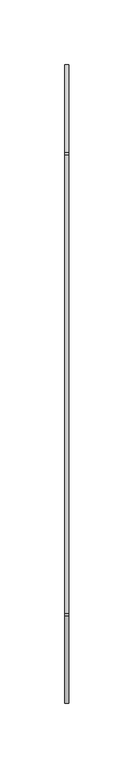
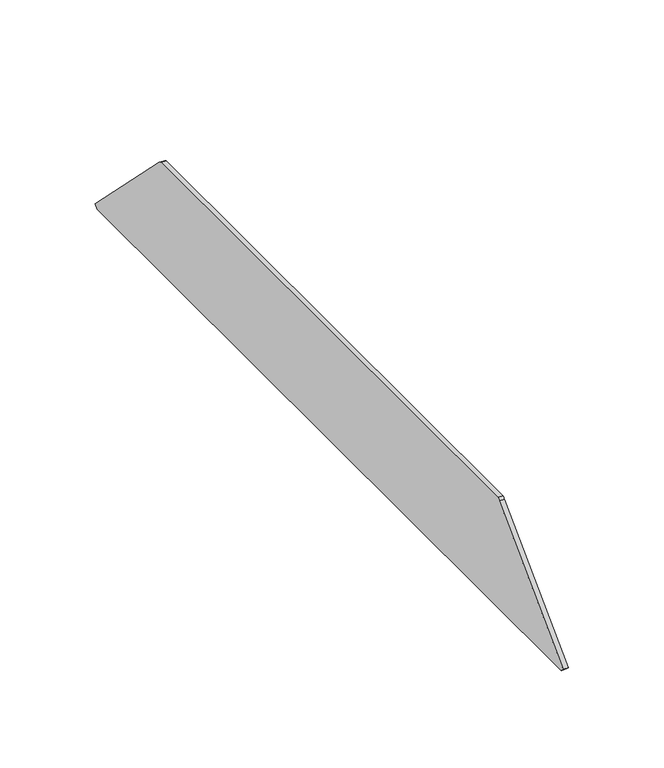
"""IFC4 building model written with IfcOpenShell, lengths in millimetres: cable carrier fitting geometry, Electrical_Installation_Hager_End-Piece : Electrical_Installation_Hager_End-Piece."""

from ifc_helpers import new_model, si_unit, point, frame, frame_2d, origin, place, context, project, spatial, polyline, circle_curve, trimmed, segment, composite_curve, outline, extrude, source, transform, mapped, element, save


def cable_carrier_fitting_eba510c2(model_context):
    return source(origin(), model_context, "Body", "SweptSolid", [
        extrude(outline(composite_curve([segment(polyline([(245.7213203, -32.8786797), (243.6, -35.0), (-243.6, -35.0), (-245.7213203, -32.8786797), (-178.5142136, 34.3284271)]), True, "CONTINUOUS"), segment(trimmed(circle_curve(frame_2d((-176.0170755, 32.4593317)), 3.1191692), [point((-178.5142136, 34.3284271))], [point((-176.7124549, 35.5))], False, "CARTESIAN"), True, "CONTINUOUS"), segment(polyline([(-176.7124549, 35.5), (176.7124549, 35.5)]), True, "CONTINUOUS"), segment(trimmed(circle_curve(frame_2d((175.5004738, 31.6648514)), 4.0220969), [point((176.7124549, 35.5))], [point((178.5142136, 34.3284271))], False, "CARTESIAN"), True, "CONTINUOUS"), segment(polyline([(178.5142136, 34.3284271), (245.7213203, -32.8786797)]), True, "CONTINUOUS")], self_intersect=False)), frame((0.0, 0.0, 0.0), z_axis=(1.0, 0.0, 0.0), x_axis=(0.0, 1.0, 0.0)), (0.0, 0.0, 1.0), 3.0),
    ])


if __name__ == "__main__":
    model = new_model("IFC4")
    model_context = context("Model", 3, world=origin())
    ifc_project = project(units=[si_unit("LENGTHUNIT", "METRE", prefix="MILLI")], contexts=[model_context])
    site = spatial("IfcSite", under=ifc_project)
    building = spatial("IfcBuilding", under=site)
    placement = place(None, origin())
    cable_carrier_fitting_shape = cable_carrier_fitting_eba510c2(model_context)
    element("IfcCableCarrierFitting", 1, ObjectType="Electrical_Installation_Hager_End-Piece : Electrical_Installation_Hager_End-Piece", at=placement, inside=building, context=model_context, shape_type="MappedRepresentation", body=[
        mapped(cable_carrier_fitting_shape, transform((0.0, 0.0, 0.0), x_axis=(1.0, 0.0, 0.0), y_axis=(0.0, 1.0, 0.0), z_axis=(0.0, 0.0, 1.0))),
    ])
    save(model, "model.ifc")
